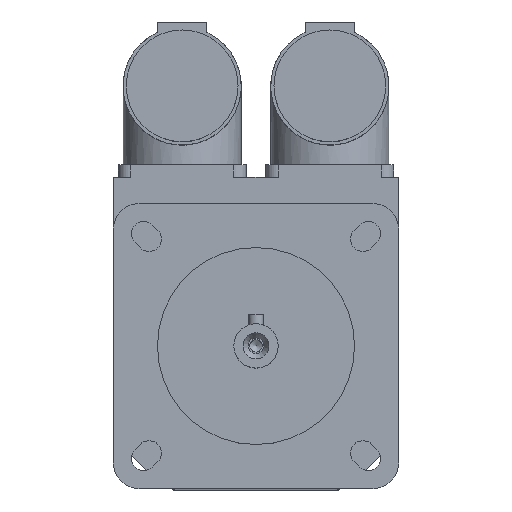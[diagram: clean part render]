
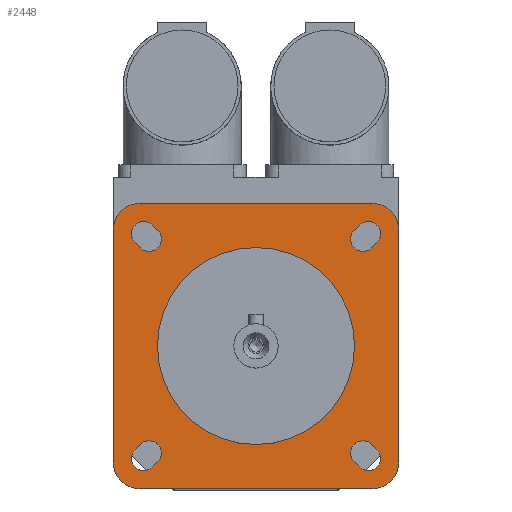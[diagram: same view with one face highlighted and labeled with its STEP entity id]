
A CAD part, top view. The second image highlights one B-rep face of the part: STEP entity #2448.
In plain terms, the highlighted planar face has unit normal (0, 0, 1).
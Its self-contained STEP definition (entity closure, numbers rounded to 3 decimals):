
#94=LINE('',#3819,#315);
#102=LINE('',#3843,#323);
#106=LINE('',#3853,#327);
#110=LINE('',#3863,#331);
#126=LINE('',#3914,#347);
#128=LINE('',#3920,#349);
#130=LINE('',#3926,#351);
#132=LINE('',#3932,#353);
#141=LINE('',#3960,#362);
#142=LINE('',#3961,#363);
#143=LINE('',#3962,#364);
#144=LINE('',#3963,#365);
#315=VECTOR('',#3029,1.5);
#323=VECTOR('',#3051,1.5);
#327=VECTOR('',#3061,1.5);
#331=VECTOR('',#3071,1.5);
#347=VECTOR('',#3117,1.5);
#349=VECTOR('',#3125,1.5);
#351=VECTOR('',#3133,1.5);
#353=VECTOR('',#3141,1.5);
#362=VECTOR('',#3172,47.);
#363=VECTOR('',#3173,47.);
#364=VECTOR('',#3174,47.);
#365=VECTOR('',#3175,47.);
#512=PLANE('',#2661);
#623=FACE_BOUND('',#851,.T.);
#624=FACE_BOUND('',#852,.T.);
#625=FACE_BOUND('',#853,.T.);
#626=FACE_BOUND('',#854,.T.);
#627=FACE_BOUND('',#855,.T.);
#699=FACE_OUTER_BOUND('',#850,.T.);
#850=EDGE_LOOP('',(#1958,#1959,#1960,#1961,#1962,#1963,#1964,#1965));
#851=EDGE_LOOP('',(#1966));
#852=EDGE_LOOP('',(#1967,#1968,#1969,#1970));
#853=EDGE_LOOP('',(#1971,#1972,#1973,#1974));
#854=EDGE_LOOP('',(#1975,#1976,#1977,#1978));
#855=EDGE_LOOP('',(#1979,#1980,#1981,#1982));
#950=CIRCLE('',#2551,20.);
#987=CIRCLE('',#2615,2.5);
#991=CIRCLE('',#2622,2.5);
#992=CIRCLE('',#2625,2.5);
#993=CIRCLE('',#2628,2.5);
#1003=CIRCLE('',#2643,2.5);
#1004=CIRCLE('',#2646,2.5);
#1005=CIRCLE('',#2649,2.5);
#1006=CIRCLE('',#2652,2.5);
#1007=CIRCLE('',#2654,5.5);
#1008=CIRCLE('',#2656,5.5);
#1009=CIRCLE('',#2658,5.5);
#1010=CIRCLE('',#2660,5.5);
#1078=VERTEX_POINT('',#3640);
#1143=VERTEX_POINT('',#3816);
#1144=VERTEX_POINT('',#3818);
#1145=VERTEX_POINT('',#3822);
#1152=VERTEX_POINT('',#3840);
#1153=VERTEX_POINT('',#3842);
#1154=VERTEX_POINT('',#3846);
#1155=VERTEX_POINT('',#3850);
#1156=VERTEX_POINT('',#3852);
#1157=VERTEX_POINT('',#3856);
#1158=VERTEX_POINT('',#3860);
#1159=VERTEX_POINT('',#3862);
#1160=VERTEX_POINT('',#3866);
#1179=VERTEX_POINT('',#3912);
#1180=VERTEX_POINT('',#3918);
#1181=VERTEX_POINT('',#3924);
#1182=VERTEX_POINT('',#3930);
#1183=VERTEX_POINT('',#3936);
#1184=VERTEX_POINT('',#3938);
#1185=VERTEX_POINT('',#3942);
#1186=VERTEX_POINT('',#3944);
#1187=VERTEX_POINT('',#3948);
#1188=VERTEX_POINT('',#3950);
#1189=VERTEX_POINT('',#3954);
#1190=VERTEX_POINT('',#3956);
#1324=EDGE_CURVE('',#1078,#1078,#950,.T.);
#1410=EDGE_CURVE('',#1144,#1143,#94,.T.);
#1413=EDGE_CURVE('',#1143,#1145,#987,.T.);
#1422=EDGE_CURVE('',#1153,#1152,#102,.T.);
#1425=EDGE_CURVE('',#1152,#1154,#991,.T.);
#1427=EDGE_CURVE('',#1156,#1155,#106,.T.);
#1430=EDGE_CURVE('',#1155,#1157,#992,.T.);
#1432=EDGE_CURVE('',#1159,#1158,#110,.T.);
#1435=EDGE_CURVE('',#1158,#1160,#993,.T.);
#1458=EDGE_CURVE('',#1157,#1179,#126,.T.);
#1459=EDGE_CURVE('',#1179,#1156,#1003,.T.);
#1461=EDGE_CURVE('',#1154,#1180,#128,.T.);
#1462=EDGE_CURVE('',#1180,#1153,#1004,.T.);
#1464=EDGE_CURVE('',#1160,#1181,#130,.T.);
#1465=EDGE_CURVE('',#1181,#1159,#1005,.T.);
#1467=EDGE_CURVE('',#1145,#1182,#132,.T.);
#1468=EDGE_CURVE('',#1182,#1144,#1006,.T.);
#1470=EDGE_CURVE('',#1184,#1183,#1007,.T.);
#1473=EDGE_CURVE('',#1186,#1185,#1008,.T.);
#1476=EDGE_CURVE('',#1188,#1187,#1009,.T.);
#1479=EDGE_CURVE('',#1190,#1189,#1010,.T.);
#1481=EDGE_CURVE('',#1183,#1190,#141,.T.);
#1482=EDGE_CURVE('',#1189,#1188,#142,.T.);
#1483=EDGE_CURVE('',#1187,#1186,#143,.T.);
#1484=EDGE_CURVE('',#1185,#1184,#144,.T.);
#1958=ORIENTED_EDGE('',*,*,#1481,.T.);
#1959=ORIENTED_EDGE('',*,*,#1479,.T.);
#1960=ORIENTED_EDGE('',*,*,#1482,.T.);
#1961=ORIENTED_EDGE('',*,*,#1476,.T.);
#1962=ORIENTED_EDGE('',*,*,#1483,.T.);
#1963=ORIENTED_EDGE('',*,*,#1473,.T.);
#1964=ORIENTED_EDGE('',*,*,#1484,.T.);
#1965=ORIENTED_EDGE('',*,*,#1470,.T.);
#1966=ORIENTED_EDGE('',*,*,#1324,.T.);
#1967=ORIENTED_EDGE('',*,*,#1458,.T.);
#1968=ORIENTED_EDGE('',*,*,#1459,.T.);
#1969=ORIENTED_EDGE('',*,*,#1427,.T.);
#1970=ORIENTED_EDGE('',*,*,#1430,.T.);
#1971=ORIENTED_EDGE('',*,*,#1461,.T.);
#1972=ORIENTED_EDGE('',*,*,#1462,.T.);
#1973=ORIENTED_EDGE('',*,*,#1422,.T.);
#1974=ORIENTED_EDGE('',*,*,#1425,.T.);
#1975=ORIENTED_EDGE('',*,*,#1464,.T.);
#1976=ORIENTED_EDGE('',*,*,#1465,.T.);
#1977=ORIENTED_EDGE('',*,*,#1432,.T.);
#1978=ORIENTED_EDGE('',*,*,#1435,.T.);
#1979=ORIENTED_EDGE('',*,*,#1467,.T.);
#1980=ORIENTED_EDGE('',*,*,#1468,.T.);
#1981=ORIENTED_EDGE('',*,*,#1410,.T.);
#1982=ORIENTED_EDGE('',*,*,#1413,.T.);
#2448=ADVANCED_FACE('',(#699,#623,#624,#625,#626,#627),#512,.T.);
#2551=AXIS2_PLACEMENT_3D('',#3641,#2854,#2855);
#2615=AXIS2_PLACEMENT_3D('',#3824,#3034,#3035);
#2622=AXIS2_PLACEMENT_3D('',#3848,#3056,#3057);
#2625=AXIS2_PLACEMENT_3D('',#3858,#3066,#3067);
#2628=AXIS2_PLACEMENT_3D('',#3868,#3076,#3077);
#2643=AXIS2_PLACEMENT_3D('',#3916,#3120,#3121);
#2646=AXIS2_PLACEMENT_3D('',#3922,#3128,#3129);
#2649=AXIS2_PLACEMENT_3D('',#3928,#3136,#3137);
#2652=AXIS2_PLACEMENT_3D('',#3934,#3144,#3145);
#2654=AXIS2_PLACEMENT_3D('',#3939,#3149,#3150);
#2656=AXIS2_PLACEMENT_3D('',#3945,#3155,#3156);
#2658=AXIS2_PLACEMENT_3D('',#3951,#3161,#3162);
#2660=AXIS2_PLACEMENT_3D('',#3957,#3167,#3168);
#2661=AXIS2_PLACEMENT_3D('',#3959,#3170,#3171);
#2854=DIRECTION('center_axis',(0.,0.,-1.));
#2855=DIRECTION('ref_axis',(-1.,0.,0.));
#3029=DIRECTION('',(-0.707,-0.707,0.));
#3034=DIRECTION('center_axis',(0.,0.,-1.));
#3035=DIRECTION('ref_axis',(0.707,-0.707,0.));
#3051=DIRECTION('',(-0.707,0.707,0.));
#3056=DIRECTION('center_axis',(0.,0.,-1.));
#3057=DIRECTION('ref_axis',(-0.707,-0.707,0.));
#3061=DIRECTION('',(-0.707,-0.707,0.));
#3066=DIRECTION('center_axis',(0.,0.,-1.));
#3067=DIRECTION('ref_axis',(0.707,-0.707,0.));
#3071=DIRECTION('',(-0.707,0.707,0.));
#3076=DIRECTION('center_axis',(0.,0.,-1.));
#3077=DIRECTION('ref_axis',(-0.707,-0.707,0.));
#3117=DIRECTION('',(0.707,0.707,0.));
#3120=DIRECTION('center_axis',(0.,0.,-1.));
#3121=DIRECTION('ref_axis',(-0.707,0.707,0.));
#3125=DIRECTION('',(0.707,-0.707,0.));
#3128=DIRECTION('center_axis',(0.,0.,-1.));
#3129=DIRECTION('ref_axis',(0.707,0.707,0.));
#3133=DIRECTION('',(0.707,-0.707,0.));
#3136=DIRECTION('center_axis',(0.,0.,-1.));
#3137=DIRECTION('ref_axis',(0.707,0.707,0.));
#3141=DIRECTION('',(0.707,0.707,0.));
#3144=DIRECTION('center_axis',(0.,0.,-1.));
#3145=DIRECTION('ref_axis',(-0.707,0.707,0.));
#3149=DIRECTION('center_axis',(0.,0.,1.));
#3150=DIRECTION('ref_axis',(1.,0.,0.));
#3155=DIRECTION('center_axis',(0.,0.,1.));
#3156=DIRECTION('ref_axis',(0.,-1.,0.));
#3161=DIRECTION('center_axis',(0.,0.,1.));
#3162=DIRECTION('ref_axis',(-1.,0.,0.));
#3167=DIRECTION('center_axis',(0.,0.,1.));
#3168=DIRECTION('ref_axis',(0.,1.,0.));
#3170=DIRECTION('center_axis',(0.,0.,1.));
#3171=DIRECTION('ref_axis',(1.,0.,0.));
#3172=DIRECTION('',(-1.,0.,0.));
#3173=DIRECTION('',(0.,-1.,0.));
#3174=DIRECTION('',(1.,0.,0.));
#3175=DIRECTION('',(0.,1.,0.));
#3640=CARTESIAN_POINT('',(20.,0.,122.5));
#3641=CARTESIAN_POINT('Origin',(0.,0.,122.5));
#3816=CARTESIAN_POINT('',(-21.036,-24.572,122.5));
#3818=CARTESIAN_POINT('',(-19.976,-23.511,122.5));
#3819=CARTESIAN_POINT('',(-9.634,-13.17,122.5));
#3822=CARTESIAN_POINT('',(-24.572,-21.036,122.5));
#3824=CARTESIAN_POINT('Origin',(-22.804,-22.804,122.5));
#3840=CARTESIAN_POINT('',(-24.572,21.036,122.5));
#3842=CARTESIAN_POINT('',(-23.511,19.976,122.5));
#3843=CARTESIAN_POINT('',(-13.17,9.634,122.5));
#3846=CARTESIAN_POINT('',(-21.036,24.572,122.5));
#3848=CARTESIAN_POINT('Origin',(-22.804,22.804,122.5));
#3850=CARTESIAN_POINT('',(23.511,19.976,122.5));
#3852=CARTESIAN_POINT('',(24.572,21.036,122.5));
#3853=CARTESIAN_POINT('',(12.64,9.104,122.5));
#3856=CARTESIAN_POINT('',(19.976,23.511,122.5));
#3858=CARTESIAN_POINT('Origin',(21.744,21.744,122.5));
#3860=CARTESIAN_POINT('',(19.976,-23.511,122.5));
#3862=CARTESIAN_POINT('',(21.036,-24.572,122.5));
#3863=CARTESIAN_POINT('',(9.104,-12.64,122.5));
#3866=CARTESIAN_POINT('',(23.511,-19.976,122.5));
#3868=CARTESIAN_POINT('Origin',(21.744,-21.744,122.5));
#3912=CARTESIAN_POINT('',(21.036,24.572,122.5));
#3914=CARTESIAN_POINT('',(9.634,13.17,122.5));
#3916=CARTESIAN_POINT('Origin',(22.804,22.804,122.5));
#3918=CARTESIAN_POINT('',(-19.976,23.511,122.5));
#3920=CARTESIAN_POINT('',(-9.104,12.64,122.5));
#3922=CARTESIAN_POINT('Origin',(-21.744,21.744,122.5));
#3924=CARTESIAN_POINT('',(24.572,-21.036,122.5));
#3926=CARTESIAN_POINT('',(13.17,-9.634,122.5));
#3928=CARTESIAN_POINT('Origin',(22.804,-22.804,122.5));
#3930=CARTESIAN_POINT('',(-23.511,-19.976,122.5));
#3932=CARTESIAN_POINT('',(-12.64,-9.104,122.5));
#3934=CARTESIAN_POINT('Origin',(-21.744,-21.744,122.5));
#3936=CARTESIAN_POINT('',(23.5,29.,122.5));
#3938=CARTESIAN_POINT('',(29.,23.5,122.5));
#3939=CARTESIAN_POINT('Origin',(23.5,23.5,122.5));
#3942=CARTESIAN_POINT('',(29.,-23.5,122.5));
#3944=CARTESIAN_POINT('',(23.5,-29.,122.5));
#3945=CARTESIAN_POINT('Origin',(23.5,-23.5,122.5));
#3948=CARTESIAN_POINT('',(-23.5,-29.,122.5));
#3950=CARTESIAN_POINT('',(-29.,-23.5,122.5));
#3951=CARTESIAN_POINT('Origin',(-23.5,-23.5,122.5));
#3954=CARTESIAN_POINT('',(-29.,23.5,122.5));
#3956=CARTESIAN_POINT('',(-23.5,29.,122.5));
#3957=CARTESIAN_POINT('Origin',(-23.5,23.5,122.5));
#3959=CARTESIAN_POINT('Origin',(0.,0.,
122.5));
#3960=CARTESIAN_POINT('',(23.5,29.,122.5));
#3961=CARTESIAN_POINT('',(-29.,23.5,122.5));
#3962=CARTESIAN_POINT('',(-23.5,-29.,122.5));
#3963=CARTESIAN_POINT('',(29.,-23.5,122.5));
